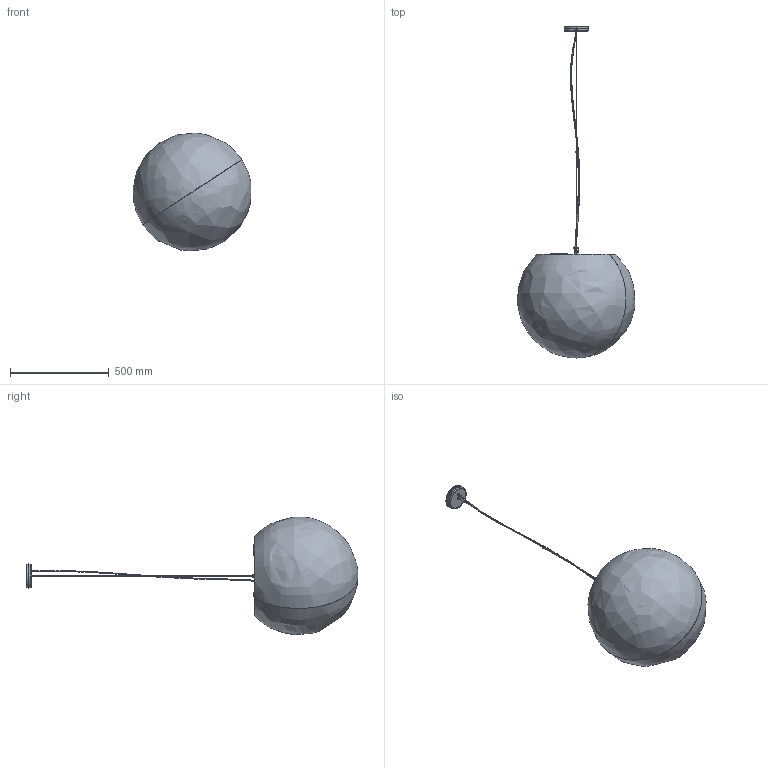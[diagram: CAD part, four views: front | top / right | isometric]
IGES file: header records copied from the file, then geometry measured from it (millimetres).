
Start section: SolidWorks IGES file using analytic representation for surfaces
Global section: file name: E:\3D lampy\Cumulus\Cumulus 600 zwis\Cumulus_9607.IGS; native system: SolidWorks 2016; preprocessor: SolidWorks 2016; author: Asia; date: 170623.110757; units: millimetre
Bounding box: 595.32 x 1678.39 x 596.49 mm (x, y, z)
Surface area: 2361074.4 mm2 (no closed solid volume)
Topology: 0 solids, 0 shells, 2102 faces, 20071 edges, 20052 vertices
Faces by surface type: bspline 1646, revolution 456
